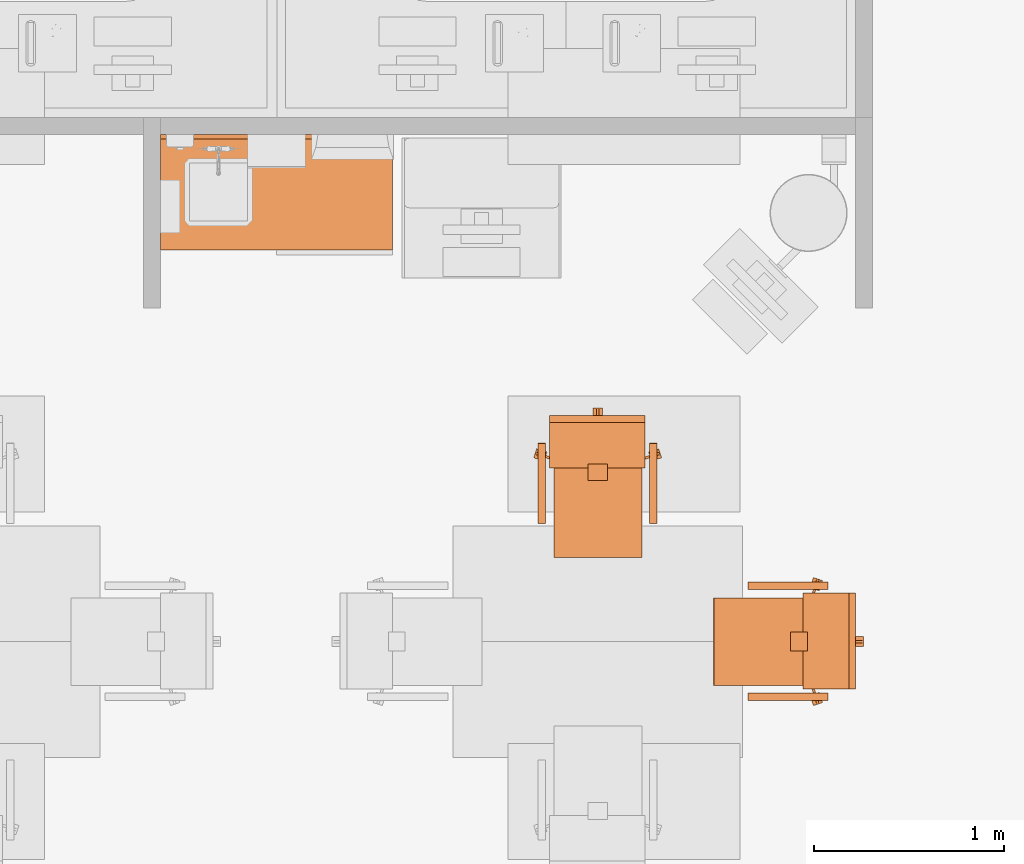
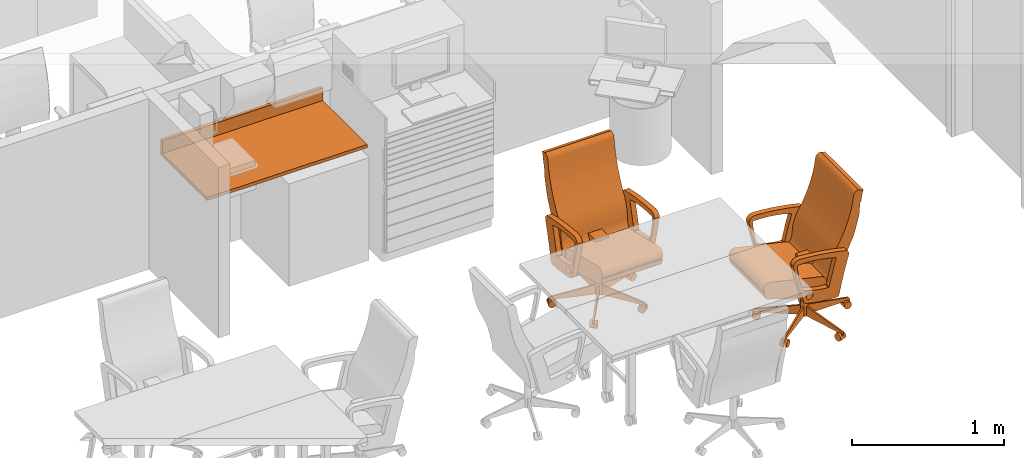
# One storey, part 60 of 142: 3 proxies.
"""IFC2X3 building model written with IfcOpenShell, lengths in feet."""

import ifcopenshell
import ifcopenshell.guid

model = None  # the IFC model being written
_history = None  # IfcOwnerHistory: only IFC2X3 demands one
_inside = {}  # id of a spatial element -> (the spatial element, [elements in it])
_under = {}  # id of a project, library or spatial element -> (it, [spatial elements below it])
_declared = {}  # id of a project -> (the project, [libraries it declares])
_typed = {}  # id of a type object -> (the type object, [elements of that type])
_made_of = {}  # id of a material, layer set ... -> (it, [elements and type objects made of it])


def new_model(schema):
    """Start an empty IFC model of exactly this schema.

    Asked for "IFC4X3", IfcOpenShell would pick the latest addendum, in which some entities
    have other attributes; the version numbers below select the first issue.
    IFC2X3 requires an IfcOwnerHistory on every rooted entity: one is made here for all.
    """
    global model, _history
    if schema == "IFC4X3":
        model = ifcopenshell.file(schema_version=(4, 3, 0, 0))
    else:
        model = ifcopenshell.file(schema=schema)
    _inside.clear()
    _under.clear()
    _declared.clear()
    _typed.clear()
    _made_of.clear()
    _history = None
    if model.schema == "IFC2X3":
        org = make("IfcOrganization", Name="unknown")
        user = make(
            "IfcPersonAndOrganization",
            ThePerson=make("IfcPerson", FamilyName="unknown"),
            TheOrganization=org,
        )
        app = make(
            "IfcApplication",
            ApplicationDeveloper=org,
            Version="unknown",
            ApplicationFullName="unknown",
            ApplicationIdentifier="unknown",
        )
        _history = make(
            "IfcOwnerHistory",
            OwningUser=user,
            OwningApplication=app,
            ChangeAction="ADDED",
            CreationDate=0,
        )
    return model


def make(cls, **values):
    """One entity of the class cls with the attributes given. An attribute that is None is left unset."""
    return model.create_entity(
        cls, **{name: value for name, value in values.items() if value is not None}
    )


def entity(cls, *values):
    """Any entity or typed value of the class cls, its attributes in the order of the schema. None: left unset."""
    e = model.create_entity(cls)
    for i, value in enumerate(values):
        if value is not None:
            e[i] = value
    return e


def rooted(cls, **values):
    """An entity with a GlobalId (a new one), such as an element, a storey or a relation."""
    return make(cls, GlobalId=ifcopenshell.guid.new(), OwnerHistory=_history, **values)


def si_unit(unit_type, name, prefix=None):
    """IfcSIUnit, for example si_unit("LENGTHUNIT", "METRE", prefix="MILLI")."""
    return make("IfcSIUnit", UnitType=unit_type, Prefix=prefix, Name=name)


def converted_unit(unit_type, name, factor, base, dimensions=None, offset=None):
    """IfcConversionBasedUnit, such as the inch: factor (a typed value) times the base unit."""
    return make(
        "IfcConversionBasedUnit"
        if offset is None
        else "IfcConversionBasedUnitWithOffset",
        ConversionOffset=offset,
        Dimensions=None
        if dimensions is None
        else entity("IfcDimensionalExponents", *dimensions),
        UnitType=unit_type,
        Name=name,
        ConversionFactor=make(
            "IfcMeasureWithUnit", ValueComponent=factor, UnitComponent=base
        ),
    )


def derived_unit(unit_type, elements):
    """IfcDerivedUnit: a product of units, each with its exponent."""
    return make(
        "IfcDerivedUnit",
        Elements=[
            make("IfcDerivedUnitElement", Unit=unit, Exponent=power)
            for unit, power in elements
        ],
        UnitType=unit_type,
    )


def assignment(units):
    """IfcUnitAssignment: the units of a project."""
    return None if units is None else make("IfcUnitAssignment", Units=units)


def point(xyz):
    """IfcCartesianPoint."""
    return None if xyz is None else make("IfcCartesianPoint", Coordinates=xyz)


def direction(xyz):
    """IfcDirection."""
    return None if xyz is None else make("IfcDirection", DirectionRatios=xyz)


def frame(location, z_axis=None, x_axis=None):
    """IfcAxis2Placement3D, a coordinate frame: its origin and axes. An axis left out is left unset."""
    return make(
        "IfcAxis2Placement3D",
        Location=point(location),
        Axis=direction(z_axis),
        RefDirection=direction(x_axis),
    )


def frame_2d(location, x_axis=None):
    """IfcAxis2Placement2D, a coordinate frame in the plane: its origin and x axis."""
    return make(
        "IfcAxis2Placement2D", Location=point(location), RefDirection=direction(x_axis)
    )


def origin():
    """The frame at (0, 0, 0) with its axes left unset."""
    return frame((0.0, 0.0, 0.0))


def place(relative_to, where):
    """IfcLocalPlacement: puts the frame where relative to a parent placement (None: the world)."""
    return make(
        "IfcLocalPlacement", PlacementRelTo=relative_to, RelativePlacement=where
    )


def context(
    kind, dimensions, precision=None, world=None, true_north=None, identifier=None
):
    """IfcGeometricRepresentationContext, for example the 3D "Model" context."""
    return make(
        "IfcGeometricRepresentationContext",
        ContextIdentifier=identifier,
        ContextType=kind,
        CoordinateSpaceDimension=dimensions,
        Precision=precision,
        WorldCoordinateSystem=world,
        TrueNorth=true_north,
    )


def subcontext(parent, identifier, kind, view, scale=None):
    """IfcGeometricRepresentationSubContext, for example "Body" below "Model"."""
    return make(
        "IfcGeometricRepresentationSubContext",
        ContextIdentifier=identifier,
        ContextType=kind,
        ParentContext=parent,
        TargetScale=scale,
        TargetView=view,
    )


def project(units=None, contexts=None):
    """IfcProject with its units and contexts."""
    return rooted(
        "IfcProject",
        Name="project",
        RepresentationContexts=contexts,
        UnitsInContext=assignment(units),
    )


def spatial(cls, under=None, at=None, **own):
    """A site, building, storey or space (cls), placed at a placement, below another one or the project."""
    s = rooted(cls, ObjectPlacement=at, **own)
    if under is not None:
        _under.setdefault(under.id(), (under, []))[1].append(s)
    return s


def polyline(points):
    """IfcPolyline through the points."""
    return make("IfcPolyline", Points=[point(p) for p in points])


def circle_curve(where, radius):
    """IfcCircle in the frame where."""
    return make("IfcCircle", Position=where, Radius=radius)


def parameter(value):
    """IfcParameterValue: where a trimmed curve begins or ends, as a parameter of its basis curve."""
    return model.create_entity("IfcParameterValue", value)


def trimmed(basis, trim1, trim2, sense, master):
    """IfcTrimmedCurve: the piece of a basis curve between two trims."""
    return make(
        "IfcTrimmedCurve",
        BasisCurve=basis,
        Trim1=trim1,
        Trim2=trim2,
        SenseAgreement=sense,
        MasterRepresentation=master,
    )


def segment(curve, same_sense, transition):
    """IfcCompositeCurveSegment."""
    return make(
        "IfcCompositeCurveSegment",
        Transition=transition,
        SameSense=same_sense,
        ParentCurve=curve,
    )


def composite_curve(segments, self_intersect=None):
    """IfcCompositeCurve: segments joined end to end."""
    return make("IfcCompositeCurve", Segments=segments, SelfIntersect=self_intersect)


def profile(cls, at=None, kind="AREA", **sizes):
    """A parametric profile (cls). Its sizes go by their IFC names, for example OverallWidth=200.0."""
    return make(cls, ProfileType=kind, Position=at, **sizes)


def rectangle(**sizes):
    """IfcRectangleProfileDef."""
    return profile("IfcRectangleProfileDef", **sizes)


def circle(**sizes):
    """IfcCircleProfileDef."""
    return profile("IfcCircleProfileDef", **sizes)


def outline(outer, holes=None, kind="AREA"):
    """IfcArbitraryClosedProfileDef: a profile drawn as a closed curve; with holes, ...WithVoids."""
    if holes is None:
        return make("IfcArbitraryClosedProfileDef", ProfileType=kind, OuterCurve=outer)
    return make(
        "IfcArbitraryProfileDefWithVoids",
        ProfileType=kind,
        OuterCurve=outer,
        InnerCurves=holes,
    )


def extrude(swept, where, along, depth):
    """IfcExtrudedAreaSolid: the profile swept, set in the frame where, extruded along a direction by depth."""
    return make(
        "IfcExtrudedAreaSolid",
        SweptArea=swept,
        Position=where,
        ExtrudedDirection=direction(along),
        Depth=depth,
    )


def shape(context_of_items, identifier, shape_type, items):
    """IfcShapeRepresentation: the items that make up one representation, for example the "Body"."""
    return make(
        "IfcShapeRepresentation",
        ContextOfItems=context_of_items,
        RepresentationIdentifier=identifier,
        RepresentationType=shape_type,
        Items=items,
    )


def source(mapping_origin, context_of_items, identifier, shape_type, items):
    """IfcRepresentationMap: a shape defined once, which mapped items show again and again."""
    return make(
        "IfcRepresentationMap",
        MappingOrigin=mapping_origin,
        MappedRepresentation=shape(context_of_items, identifier, shape_type, items),
    )


def transform(
    local_origin,
    x_axis=None,
    y_axis=None,
    z_axis=None,
    scale=None,
    scale2=None,
    scale3=None,
    uniform=True,
):
    """IfcCartesianTransformationOperator3D, or its non-uniform kind. x_axis, y_axis, z_axis: its Axis1, 2, 3."""
    if uniform:
        return make(
            "IfcCartesianTransformationOperator3D",
            Axis1=direction(x_axis),
            Axis2=direction(y_axis),
            LocalOrigin=point(local_origin),
            Scale=scale,
            Axis3=direction(z_axis),
        )
    return make(
        "IfcCartesianTransformationOperator3DnonUniform",
        Axis1=direction(x_axis),
        Axis2=direction(y_axis),
        LocalOrigin=point(local_origin),
        Scale=scale,
        Axis3=direction(z_axis),
        Scale2=scale2,
        Scale3=scale3,
    )


def mapped(mapping_source, mapping_target):
    """IfcMappedItem: shows the shape of a source again, moved by a transform."""
    return make(
        "IfcMappedItem", MappingSource=mapping_source, MappingTarget=mapping_target
    )


def made_of(thing, what):
    """Note that an element or type object is made of a material, layer set ...; save() writes the relation."""
    if what is not None:
        _made_of.setdefault(what.id(), (what, []))[1].append(thing)
    return thing


def type_object(cls, material=None, **own):
    """A type object (cls), such as IfcWallType, which elements share."""
    return made_of(rooted(cls, **own), material)


def type_shapes(of_type, sources):
    """Give a type object the sources (RepresentationMaps) that its elements show as mapped items."""
    of_type.RepresentationMaps = sources


def element(
    cls,
    number,
    at=None,
    inside=None,
    cuts=None,
    type_object=None,
    material=None,
    context=None,
    identifier="Body",
    shape_type=None,
    held_by="IfcProductDefinitionShape",
    body=None,
    shapes=None,
    **own,
):
    """One element of the class cls, such as IfcWall. Its Tag is "e" and its number.

    at: its placement. inside: the storey or other place that contains it. cuts: it is an
    opening in that element (IfcRelVoidsElement). A single representation is given by context,
    identifier, shape_type and body (its items); several are given by shapes. held_by: the class
    of the entity that holds the representations. save() writes the other relations.
    """
    e = rooted(cls, Tag="e%d" % number, ObjectPlacement=at, **own)
    if body is not None:
        shapes = [shape(context, identifier, shape_type, body)]
    if shapes is not None:
        e.Representation = make(held_by, Representations=shapes)
    if inside is not None:
        _inside.setdefault(inside.id(), (inside, []))[1].append(e)
    if cuts is not None:
        rooted(
            "IfcRelVoidsElement", RelatingBuildingElement=cuts, RelatedOpeningElement=e
        )
    if type_object is not None:
        _typed.setdefault(type_object.id(), (type_object, []))[1].append(e)
    return made_of(e, material)


def aggregate(whole, parts):
    """IfcRelAggregates: a whole, such as a stair, and the parts it consists of."""
    return rooted("IfcRelAggregates", RelatingObject=whole, RelatedObjects=parts)


def save(model, path):
    """Write the relations noted so far, then the file.

    IfcRelAggregates (storeys below a building ...), IfcRelContainedInSpatialStructure (elements
    in a storey), IfcRelDefinesByType, IfcRelAssociatesMaterial and IfcRelDeclares: one each for
    every whole, place, type object, material and project.
    """
    for whole, parts in _under.values():
        aggregate(whole, parts)
    for where, things in _inside.values():
        rooted(
            "IfcRelContainedInSpatialStructure",
            RelatedElements=things,
            RelatingStructure=where,
        )
    for kind, things in _typed.values():
        rooted("IfcRelDefinesByType", RelatedObjects=things, RelatingType=kind)
    for what, things in _made_of.values():
        rooted("IfcRelAssociatesMaterial", RelatedObjects=things, RelatingMaterial=what)
    for by, libraries in _declared.values():
        rooted("IfcRelDeclares", RelatingContext=by, RelatedDefinitions=libraries)
    model.write(path)


model = new_model("IFC2X3")

# Units and contexts
model_context = context("Model", 3, precision=0.0001, world=origin(), true_north=direction((6.12303176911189e-17, 1.0)))
body_context = subcontext(model_context, "Body", "Model", "MODEL_VIEW")
ifc_project = project(units=[converted_unit("LENGTHUNIT", "FOOT", entity("IfcRatioMeasure", 0.3048), si_unit("LENGTHUNIT", "METRE"), dimensions=[1, 0, 0, 0, 0, 0, 0]), converted_unit("AREAUNIT", "SQUARE FOOT", entity("IfcRatioMeasure", 0.09290304), si_unit("AREAUNIT", "SQUARE_METRE"), dimensions=[2, 0, 0, 0, 0, 0, 0]), converted_unit("VOLUMEUNIT", "CUBIC FOOT", entity("IfcRatioMeasure", 0.028316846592), si_unit("VOLUMEUNIT", "CUBIC_METRE"), dimensions=[3, 0, 0, 0, 0, 0, 0]), converted_unit("PLANEANGLEUNIT", "DEGREE", entity("IfcRatioMeasure", 0.0174532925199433), si_unit("PLANEANGLEUNIT", "RADIAN"), dimensions=[0, 0, 0, 0, 0, 0, 0]), si_unit("MASSUNIT", "GRAM", prefix="KILO"), derived_unit("MASSDENSITYUNIT", [(si_unit("MASSUNIT", "GRAM", prefix="KILO"), 1), (si_unit("LENGTHUNIT", "METRE"), -3)]), si_unit("TIMEUNIT", "SECOND"), si_unit("FREQUENCYUNIT", "HERTZ"), si_unit("THERMODYNAMICTEMPERATUREUNIT", "DEGREE_CELSIUS"), derived_unit("THERMALTRANSMITTANCEUNIT", [(si_unit("MASSUNIT", "GRAM", prefix="KILO"), 1), (si_unit("THERMODYNAMICTEMPERATUREUNIT", "KELVIN"), -1), (si_unit("TIMEUNIT", "SECOND"), -3)]), derived_unit("VOLUMETRICFLOWRATEUNIT", [(si_unit("LENGTHUNIT", "METRE"), 3), (si_unit("TIMEUNIT", "SECOND"), -1)]), si_unit("ELECTRICCURRENTUNIT", "AMPERE"), si_unit("ELECTRICVOLTAGEUNIT", "VOLT"), si_unit("POWERUNIT", "WATT"), si_unit("FORCEUNIT", "NEWTON"), si_unit("ILLUMINANCEUNIT", "LUX"), si_unit("LUMINOUSFLUXUNIT", "LUMEN"), si_unit("LUMINOUSINTENSITYUNIT", "CANDELA"), derived_unit("USERDEFINED", [(si_unit("MASSUNIT", "GRAM", prefix="KILO"), -1), (si_unit("LENGTHUNIT", "METRE"), -2), (si_unit("TIMEUNIT", "SECOND"), 3), (si_unit("LUMINOUSFLUXUNIT", "LUMEN"), 1)]), derived_unit("LINEARVELOCITYUNIT", [(si_unit("LENGTHUNIT", "METRE"), 1), (si_unit("TIMEUNIT", "SECOND"), -1)]), si_unit("PRESSUREUNIT", "PASCAL"), derived_unit("USERDEFINED", [(si_unit("LENGTHUNIT", "METRE"), -2), (si_unit("MASSUNIT", "GRAM", prefix="KILO"), 1), (si_unit("TIMEUNIT", "SECOND"), -2)])], contexts=[model_context])

# Site, building, storey
site_placement = place(None, origin())
site = spatial("IfcSite", under=ifc_project, at=site_placement, Name="Default", CompositionType="ELEMENT")
building_placement = place(site_placement, origin())
building = spatial("IfcBuilding", under=site, at=building_placement, Name="OUTPATIENT / PACT CLINIC (Ch. 265)", CompositionType="ELEMENT")
storey_placement = place(building_placement, origin())
storey = spatial("IfcBuildingStorey", under=building, at=storey_placement, Name="LEVEL 1", CompositionType="ELEMENT", Elevation=0.0)

# Proxy
building_element_proxy_type_1 = type_object("IfcBuildingElementProxyType", Name="CT020 - Countertop, Solid Surface - No Opening (1)", PredefinedType="NOTDEFINED")
shared_shape_1 = source(origin(), body_context, "Body", "SweptSolid", [
    extrude(rectangle(XDim=4.0, YDim=0.083333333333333, at=frame_2d((0.0, -5.55111512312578e-17), x_axis=(1.0, 0.0))), frame((0.0, 0.958333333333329, 0.0833333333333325)), (0.0, 0.0, 1.0), 0.333333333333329),
    extrude(rectangle(XDim=4.0, YDim=2.0, at=frame_2d((3.33066907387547e-16, 0.0), x_axis=(1.0, 0.0))), origin(), (0.0, 0.0, 1.0), 0.0833333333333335),
])
type_shapes(building_element_proxy_type_1, [shared_shape_1])
proxy_1_placement = place(storey_placement, frame((419.359283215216, -890.712158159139, 2.91666666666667)))
element("IfcBuildingElementProxy", 1, at=proxy_1_placement, inside=storey, type_object=building_element_proxy_type_1, Name="CT020 - Countertop, Solid Surface - No Opening (1):CT020 - Countertop, Solid Surface - No Opening (1)", ObjectType="CT020 - Countertop, Solid Surface - No Opening (1)", context=body_context, shape_type="MappedRepresentation", body=[
    mapped(shared_shape_1, transform((0.0, 0.0, 0.0), scale=1.0)),
])

# Space
space_placement = place(storey_placement, origin())
space = spatial("IfcSpace", under=storey, at=space_placement, Name="WRTM1", CompositionType="ELEMENT", InteriorOrExteriorSpace="INTERNAL")

# Proxies
building_element_proxy_type_2 = type_object("IfcBuildingElementProxyType", Name="F0220 - Chair, Conference", PredefinedType="NOTDEFINED")
shared_shape_2 = source(origin(), body_context, "Body", "SweptSolid", [
    extrude(outline(composite_curve([segment(trimmed(circle_curve(frame_2d((9.14984606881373, 2.49371945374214), x_axis=(1.0, 0.0)), 10.0417603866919), [parameter(191.105394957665)], [parameter(197.183115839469)], True, "PARAMETER"), True, "CONTINUOUS"), segment(trimmed(circle_curve(frame_2d((-0.383994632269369, -0.454418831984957), x_axis=(1.0, 0.0)), 0.0625), [parameter(197.183115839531)], [parameter(255.942255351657)], True, "PARAMETER"), True, "CONTINUOUS"), segment(trimmed(circle_curve(frame_2d((0.478250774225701, 2.98907031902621), x_axis=(1.0, 0.0)), 3.61230065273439), [parameter(255.942255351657)], [parameter(268.328818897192)], True, "PARAMETER"), True, "CONTINUOUS"), segment(trimmed(circle_curve(frame_2d((0.374732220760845, -0.55901559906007), x_axis=(1.0, 0.0)), 0.0627049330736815), [parameter(268.328818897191)], [parameter(347.551961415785)], True, "PARAMETER"), True, "CONTINUOUS"), segment(trimmed(circle_curve(frame_2d((12.2871693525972, -3.01281927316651), x_axis=(1.0, 0.0)), 12.0998385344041), [parameter(163.635179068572)], [parameter(168.364820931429)], True, "PARAMETER"), False, "CONTINUOUS"), segment(trimmed(circle_curve(frame_2d((0.575436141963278, 0.426318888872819), x_axis=(1.0, 0.0)), 0.106404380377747), [parameter(343.635179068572)], [parameter(76.3648209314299)], True, "PARAMETER"), True, "CONTINUOUS"), segment(trimmed(circle_curve(frame_2d((-0.866637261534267, -5.51852508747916), x_axis=(1.0, 0.0)), 6.22365422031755), [parameter(76.36482093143)], [parameter(86.9930058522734)], True, "PARAMETER"), True, "CONTINUOUS"), segment(trimmed(circle_curve(frame_2d((-0.54837852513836, 0.540062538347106), x_axis=(1.0, 0.0)), 0.156713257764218), [parameter(86.9930058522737)], [parameter(172.863289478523)], True, "PARAMETER"), True, "CONTINUOUS")], self_intersect=False), holes=[composite_curve([segment(trimmed(circle_curve(frame_2d((0.165389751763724, -0.270570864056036), x_axis=(1.0, 0.0)), 0.0208333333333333), [parameter(266.624086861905)], [parameter(347.258129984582)], True, "PARAMETER"), False, "CONTINUOUS"), segment(trimmed(circle_curve(frame_2d((0.277251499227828, 1.62574197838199), x_axis=(1.0, 0.0)), 1.92044262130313), [parameter(246.929733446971)], [parameter(266.62408686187)], True, "PARAMETER"), False, "CONTINUOUS"), segment(trimmed(circle_curve(frame_2d((-0.46977528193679, -0.128159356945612), x_axis=(1.0, 0.0)), 0.0140798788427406), [parameter(191.196690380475)], [parameter(246.929733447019)], True, "PARAMETER"), False, "CONTINUOUS"), segment(trimmed(circle_curve(frame_2d((2.43855792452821, 0.768421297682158), x_axis=(1.0, 0.0)), 3.05740066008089), [parameter(184.763265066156)], [parameter(197.106187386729)], True, "PARAMETER"), False, "CONTINUOUS"), segment(trimmed(circle_curve(frame_2d((-0.574176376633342, 0.525693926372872), x_axis=(1.0, 0.0)), 0.0358851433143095), [parameter(90.6302244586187)], [parameter(198.112157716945)], True, "PARAMETER"), False, "CONTINUOUS"), segment(trimmed(circle_curve(frame_2d((-0.540439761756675, -2.54128905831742), x_axis=(1.0, 0.0)), 3.1030536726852), [parameter(73.3959262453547)], [parameter(90.6302244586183)], True, "PARAMETER"), False, "CONTINUOUS"), segment(trimmed(circle_curve(frame_2d((0.340324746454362, 0.412409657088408), x_axis=(1.0, 0.0)), 0.0208333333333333), [parameter(344.008713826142)], [parameter(73.3959262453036)], True, "PARAMETER"), False, "CONTINUOUS"), segment(trimmed(circle_curve(frame_2d((12.2923776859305, -3.0128192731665), x_axis=(1.0, 0.0)), 12.4123385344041), [parameter(164.008713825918)], [parameter(167.258129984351)], True, "PARAMETER"), True, "CONTINUOUS")], self_intersect=False), composite_curve([segment(trimmed(circle_curve(frame_2d((-0.300575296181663, -0.351220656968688), x_axis=(1.0, 0.0)), 0.0833333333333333), [parameter(180.0)], [parameter(360.0)], True, "PARAMETER"), False, "CONTINUOUS"), segment(trimmed(circle_curve(frame_2d((-0.300575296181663, -0.351220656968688), x_axis=(1.0, 0.0)), 0.0833333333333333), [parameter(0.0)], [parameter(180.0)], True, "PARAMETER"), False, "CONTINUOUS")], self_intersect=False)]), frame((-1.03331274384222, 0.0541567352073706, 1.78474215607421), z_axis=(1.0, 0.0, 0.0), x_axis=(0.0, 1.0, 0.0)), (0.0, 0.0, 1.0), 0.128812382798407),
    extrude(outline(composite_curve([segment(trimmed(circle_curve(frame_2d((9.14984606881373, 2.49371945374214), x_axis=(1.0, 0.0)), 10.0417603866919), [parameter(191.105394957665)], [parameter(197.183115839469)], True, "PARAMETER"), True, "CONTINUOUS"), segment(trimmed(circle_curve(frame_2d((-0.383994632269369, -0.454418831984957), x_axis=(1.0, 0.0)), 0.0625), [parameter(197.183115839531)], [parameter(255.942255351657)], True, "PARAMETER"), True, "CONTINUOUS"), segment(trimmed(circle_curve(frame_2d((0.478250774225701, 2.98907031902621), x_axis=(1.0, 0.0)), 3.61230065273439), [parameter(255.942255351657)], [parameter(268.328818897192)], True, "PARAMETER"), True, "CONTINUOUS"), segment(trimmed(circle_curve(frame_2d((0.374732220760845, -0.55901559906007), x_axis=(1.0, 0.0)), 0.0627049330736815), [parameter(268.328818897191)], [parameter(347.551961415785)], True, "PARAMETER"), True, "CONTINUOUS"), segment(trimmed(circle_curve(frame_2d((12.2871693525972, -3.01281927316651), x_axis=(1.0, 0.0)), 12.0998385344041), [parameter(163.635179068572)], [parameter(168.364820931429)], True, "PARAMETER"), False, "CONTINUOUS"), segment(trimmed(circle_curve(frame_2d((0.575436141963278, 0.426318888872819), x_axis=(1.0, 0.0)), 0.106404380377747), [parameter(343.635179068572)], [parameter(76.3648209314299)], True, "PARAMETER"), True, "CONTINUOUS"), segment(trimmed(circle_curve(frame_2d((-0.866637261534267, -5.51852508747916), x_axis=(1.0, 0.0)), 6.22365422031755), [parameter(76.36482093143)], [parameter(86.9930058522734)], True, "PARAMETER"), True, "CONTINUOUS"), segment(trimmed(circle_curve(frame_2d((-0.54837852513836, 0.540062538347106), x_axis=(1.0, 0.0)), 0.156713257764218), [parameter(86.9930058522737)], [parameter(172.863289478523)], True, "PARAMETER"), True, "CONTINUOUS")], self_intersect=False), holes=[composite_curve([segment(trimmed(circle_curve(frame_2d((0.165389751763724, -0.270570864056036), x_axis=(1.0, 0.0)), 0.0208333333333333), [parameter(266.624086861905)], [parameter(347.258129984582)], True, "PARAMETER"), False, "CONTINUOUS"), segment(trimmed(circle_curve(frame_2d((0.277251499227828, 1.62574197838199), x_axis=(1.0, 0.0)), 1.92044262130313), [parameter(246.929733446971)], [parameter(266.62408686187)], True, "PARAMETER"), False, "CONTINUOUS"), segment(trimmed(circle_curve(frame_2d((-0.46977528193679, -0.128159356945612), x_axis=(1.0, 0.0)), 0.0140798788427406), [parameter(191.196690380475)], [parameter(246.929733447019)], True, "PARAMETER"), False, "CONTINUOUS"), segment(trimmed(circle_curve(frame_2d((2.43855792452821, 0.768421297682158), x_axis=(1.0, 0.0)), 3.05740066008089), [parameter(184.763265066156)], [parameter(197.106187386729)], True, "PARAMETER"), False, "CONTINUOUS"), segment(trimmed(circle_curve(frame_2d((-0.574176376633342, 0.525693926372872), x_axis=(1.0, 0.0)), 0.0358851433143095), [parameter(90.6302244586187)], [parameter(198.112157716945)], True, "PARAMETER"), False, "CONTINUOUS"), segment(trimmed(circle_curve(frame_2d((-0.540439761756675, -2.54128905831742), x_axis=(1.0, 0.0)), 3.1030536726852), [parameter(73.3959262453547)], [parameter(90.6302244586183)], True, "PARAMETER"), False, "CONTINUOUS"), segment(trimmed(circle_curve(frame_2d((0.340324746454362, 0.412409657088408), x_axis=(1.0, 0.0)), 0.0208333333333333), [parameter(344.008713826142)], [parameter(73.3959262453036)], True, "PARAMETER"), False, "CONTINUOUS"), segment(trimmed(circle_curve(frame_2d((12.2923776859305, -3.0128192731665), x_axis=(1.0, 0.0)), 12.4123385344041), [parameter(164.008713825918)], [parameter(167.258129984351)], True, "PARAMETER"), True, "CONTINUOUS")], self_intersect=False), composite_curve([segment(trimmed(circle_curve(frame_2d((-0.300575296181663, -0.351220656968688), x_axis=(1.0, 0.0)), 0.0833333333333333), [parameter(180.0)], [parameter(360.0)], True, "PARAMETER"), False, "CONTINUOUS"), segment(trimmed(circle_curve(frame_2d((-0.300575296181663, -0.351220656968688), x_axis=(1.0, 0.0)), 0.0833333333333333), [parameter(0.0)], [parameter(180.0)], True, "PARAMETER"), False, "CONTINUOUS")], self_intersect=False)]), frame((0.889516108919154, 0.0541567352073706, 1.78474215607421), z_axis=(1.0, 0.0, 0.0), x_axis=(0.0, 1.0, 0.0)), (0.0, 0.0, 1.0), 0.128812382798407),
    extrude(outline(composite_curve([segment(trimmed(circle_curve(frame_2d((0.770862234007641, -1.97589519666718), x_axis=(1.0, 0.0)), 2.24250574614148), [parameter(83.7744840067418)], [parameter(104.587152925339)], True, "PARAMETER"), True, "CONTINUOUS"), segment(trimmed(circle_curve(frame_2d((2.30952075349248, -7.88833070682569), x_axis=(1.0, 0.0)), 8.35187262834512), [parameter(104.587152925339)], [parameter(109.615059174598)], True, "PARAMETER"), True, "CONTINUOUS"), segment(trimmed(circle_curve(frame_2d((-0.466775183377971, -0.0980657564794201), x_axis=(1.0, 0.0)), 0.0816823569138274), [parameter(109.6150591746)], [parameter(157.671413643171)], True, "PARAMETER"), True, "CONTINUOUS"), segment(trimmed(circle_curve(frame_2d((0.971574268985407, -0.592538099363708), x_axis=(1.0, 0.0)), 1.60252010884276), [parameter(160.857176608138)], [parameter(166.076927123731)], True, "PARAMETER"), True, "CONTINUOUS"), segment(trimmed(circle_curve(frame_2d((-0.579633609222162, -0.207989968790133), x_axis=(1.0, 0.0)), 0.00435768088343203), [parameter(166.076927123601)], [parameter(280.378705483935)], True, "PARAMETER"), True, "CONTINUOUS"), segment(trimmed(circle_curve(frame_2d((16.512596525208, -93.5315619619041), x_axis=(1.0, 0.0)), 94.871526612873), [parameter(99.4235676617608)], [parameter(100.378705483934)], True, "PARAMETER"), False, "CONTINUOUS"), segment(trimmed(circle_curve(frame_2d((1.8700360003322, -0.000965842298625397), x_axis=(1.0, 0.0)), 0.89298195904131), [parameter(163.451060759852)], [parameter(176.106880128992)], True, "PARAMETER"), False, "CONTINUOUS")], self_intersect=False)), frame((-0.758282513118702, -0.647436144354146, 1.48104866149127), z_axis=(-1.0, 0.0, 0.0), x_axis=(0.0, 1.0, 0.0)), (0.0, 0.0, -1.0), 1.51656502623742),
    extrude(outline(composite_curve([segment(trimmed(circle_curve(frame_2d((0.748071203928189, -0.232027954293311), x_axis=(1.0, 0.0)), 0.184186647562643), [parameter(350.278861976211)], [parameter(77.0065708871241)], True, "PARAMETER"), True, "CONTINUOUS"), segment(polyline([(0.789483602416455, -0.0525572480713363), (-0.479286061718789, 0.240208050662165)]), True, "CONTINUOUS"), segment(trimmed(circle_curve(frame_2d((-0.507608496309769, 0.112724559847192), x_axis=(1.0, 0.0)), 0.130591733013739), [parameter(77.474288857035)], [parameter(198.999999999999)], True, "PARAMETER"), True, "CONTINUOUS"), segment(polyline([(-0.631085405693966, 0.0702080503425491), (-0.608725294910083, 0.00526957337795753)]), True, "CONTINUOUS"), segment(trimmed(circle_curve(frame_2d((16.4660541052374, 93.3276059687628), x_axis=(1.0, 0.0)), 94.871526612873), [parameter(259.631526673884)], [parameter(260.574620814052)], True, "PARAMETER"), True, "CONTINUOUS")], self_intersect=False)), frame((-0.758282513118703, -0.600893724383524, 1.68500465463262), z_axis=(1.0, 0.0, 0.0), x_axis=(0.0, 1.0, 0.0)), (0.0, 0.0, 1.0), 1.51656502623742),
    extrude(outline(composite_curve([segment(trimmed(circle_curve(frame_2d((-5.48433918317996, 1.67691427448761), x_axis=(1.0, 0.0)), 5.89579235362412), [parameter(342.407441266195)], [parameter(347.674731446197)], True, "PARAMETER"), True, "CONTINUOUS"), segment(polyline([(0.275564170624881, 0.418391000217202), (0.291615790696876, 0.683111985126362)]), True, "CONTINUOUS"), segment(trimmed(circle_curve(frame_2d((0.343994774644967, 0.679935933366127), x_axis=(1.0, 0.0)), 0.0524751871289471), [parameter(121.399025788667)], [parameter(176.530061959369)], True, "PARAMETER"), False, "CONTINUOUS"), segment(trimmed(circle_curve(frame_2d((0.186262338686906, 0.76504705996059), x_axis=(1.0, 0.0)), 0.136484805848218), [parameter(342.817239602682)], [parameter(358.256726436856)], True, "PARAMETER"), True, "CONTINUOUS"), segment(polyline([(0.322683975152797, 0.760895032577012), (0.342033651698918, 0.876984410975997)]), True, "CONTINUOUS"), segment(trimmed(circle_curve(frame_2d((1.20150958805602, 0.733727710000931), x_axis=(1.0, 0.0)), 0.871333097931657), [parameter(161.216169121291)], [parameter(170.536983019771)], True, "PARAMETER"), False, "CONTINUOUS"), segment(trimmed(circle_curve(frame_2d((0.559823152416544, 1.74436883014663), x_axis=(1.0, 0.0)), 0.752717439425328), [parameter(246.521848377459)], [parameter(255.910489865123)], True, "PARAMETER"), False, "CONTINUOUS"), segment(trimmed(circle_curve(frame_2d((0.257390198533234, 0.926976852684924), x_axis=(1.0, 0.0)), 0.127016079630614), [parameter(88.8492703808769)], [parameter(173.15072961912)], True, "PARAMETER"), True, "CONTINUOUS"), segment(trimmed(circle_curve(frame_2d((-2.87663606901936, 1.30342050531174), x_axis=(1.0, 0.0)), 3.02953749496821), [parameter(328.849270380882)], [parameter(353.150729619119)], True, "PARAMETER"), False, "CONTINUOUS"), segment(trimmed(circle_curve(frame_2d((0.690213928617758, -0.852550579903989), x_axis=(1.0, 0.0)), 1.13827130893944), [parameter(148.849270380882)], [parameter(180.0)], True, "PARAMETER"), True, "CONTINUOUS"), segment(trimmed(circle_curve(frame_2d((-0.752422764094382, -0.836472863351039), x_axis=(1.0, 0.0)), 0.304789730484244), [parameter(317.298982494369)], [parameter(356.976233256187)], True, "PARAMETER"), False, "CONTINUOUS"), segment(trimmed(circle_curve(frame_2d((-0.687987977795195, -1.1351871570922), x_axis=(1.0, 0.0)), 0.184186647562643), [parameter(355.215711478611)], [parameter(29.9715875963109)], True, "PARAMETER"), False, "CONTINUOUS"), segment(trimmed(circle_curve(frame_2d((0.387434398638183, -1.10614935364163), x_axis=(1.0, 0.0)), 0.89298195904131), [parameter(182.849969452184)], [parameter(196.548939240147)], True, "PARAMETER"), True, "CONTINUOUS"), segment(trimmed(circle_curve(frame_2d((-0.711739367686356, 0.868780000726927), x_axis=(1.0, 0.0)), 2.24250574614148), [parameter(276.225515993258)], [parameter(282.457471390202)], True, "PARAMETER"), True, "CONTINUOUS"), segment(trimmed(circle_curve(frame_2d((2.38262323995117, -1.47671904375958), x_axis=(1.0, 0.0)), 2.61526502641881), [parameter(155.15786130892)], [parameter(176.584898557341)], True, "PARAMETER"), False, "CONTINUOUS"), segment(polyline([(0.00935197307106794, -0.377994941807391), (0.135706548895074, -0.105065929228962)]), True, "CONTINUOUS")], self_intersect=False)), frame((-0.836149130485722, 0.835165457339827, 2.58816385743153), z_axis=(1.0, 0.0, 0.0), x_axis=(0.0, 1.0, 0.0)), (0.0, 0.0, 1.0), 1.65266976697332),
    extrude(circle(Radius=0.0833333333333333, at=frame_2d((0.0, -1.11022302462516e-16), x_axis=(1.0, 0.0))), frame((-0.00206593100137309, 0.212136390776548, 0.173534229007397)), (0.0, 0.0, 1.0), 1.0846174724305),
    extrude(circle(Radius=0.0925205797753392, at=frame_2d((0.0, -1.52655665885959e-16), x_axis=(1.0, 0.0))), frame((0.962866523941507, 0.613283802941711, 0.0902008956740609), z_axis=(0.309016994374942, -0.951056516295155, 0.0), x_axis=(0.951056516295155, 0.309016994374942, 0.0)), (0.0, 0.0, 1.0), 0.166666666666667),
    extrude(outline(composite_curve([segment(polyline([(-0.29506616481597, -0.0510253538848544), (0.663267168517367, -0.0510253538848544)]), True, "CONTINUOUS"), segment(polyline([(0.663267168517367, -0.0510253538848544), (0.663267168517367, 0.198974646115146)]), True, "CONTINUOUS"), segment(polyline([(0.663267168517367, 0.198974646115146), (0.579933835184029, 0.198974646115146)]), True, "CONTINUOUS"), segment(polyline([(0.579933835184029, 0.198974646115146), (-0.392870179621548, 0.027443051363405)]), True, "CONTINUOUS"), segment(trimmed(circle_curve(frame_2d((-0.378399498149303, -0.0546242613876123), x_axis=(-1.0, 0.0)), 0.0833333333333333), [parameter(280.0)], [parameter(0.0)], True, "PARAMETER"), True, "CONTINUOUS"), segment(polyline([(-0.461732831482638, -0.0546242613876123), (-0.461732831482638, -0.134358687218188)]), True, "CONTINUOUS"), segment(polyline([(-0.461732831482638, -0.134358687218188), (-0.29506616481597, -0.134358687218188)]), True, "CONTINUOUS"), segment(polyline([(-0.29506616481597, -0.134358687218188), (-0.29506616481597, -0.0510253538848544)]), True, "CONTINUOUS")], self_intersect=False)), frame((0.635176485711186, 0.397283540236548, 0.224559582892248), z_axis=(-0.309016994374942, 0.951056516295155, 0.0), x_axis=(-0.951056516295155, -0.309016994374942, 0.0)), (0.0, 0.0, 1.0), 0.0416666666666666),
    extrude(circle(Radius=0.0925205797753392, at=frame_2d((0.0, -1.52655665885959e-16), x_axis=(1.0, 0.0))), frame((0.542792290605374, -0.679571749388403, 0.0902008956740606), z_axis=(0.80901699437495, 0.58778525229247, 0.0), x_axis=(0.58778525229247, -0.80901699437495, 0.0)), (0.0, 0.0, 1.0), 0.166666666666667),
    extrude(outline(composite_curve([segment(polyline([(-0.295066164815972, -0.0510253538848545), (0.663267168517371, -0.0510253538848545)]), True, "CONTINUOUS"), segment(polyline([(0.66326716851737, -0.0510253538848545), (0.66326716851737, 0.198974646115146)]), True, "CONTINUOUS"), segment(polyline([(0.66326716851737, 0.198974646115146), (0.579933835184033, 0.198974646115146)]), True, "CONTINUOUS"), segment(polyline([(0.579933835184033, 0.198974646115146), (-0.392870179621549, 0.0274430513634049)]), True, "CONTINUOUS"), segment(trimmed(circle_curve(frame_2d((-0.378399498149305, -0.0546242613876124), x_axis=(-1.0, 0.0)), 0.0833333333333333), [parameter(280.0)], [parameter(0.0)], True, "PARAMETER"), True, "CONTINUOUS"), segment(polyline([(-0.46173283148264, -0.0546242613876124), (-0.46173283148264, -0.134358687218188)]), True, "CONTINUOUS"), segment(polyline([(-0.46173283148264, -0.134358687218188), (-0.295066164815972, -0.134358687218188)]), True, "CONTINUOUS"), segment(polyline([(-0.295066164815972, -0.134358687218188), (-0.295066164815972, -0.0510253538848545)]), True, "CONTINUOUS")], self_intersect=False)), frame((0.370938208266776, -0.336703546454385, 0.224559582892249), z_axis=(0.80901699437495, 0.58778525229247, 0.0), x_axis=(-0.58778525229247, 0.80901699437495, 0.0)), (0.0, 0.0, 1.0), 0.0416666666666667),
    extrude(circle(Radius=0.0925205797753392, at=frame_2d((0.0, -1.52655665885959e-16), x_axis=(1.0, 0.0))), frame((-0.681760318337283, -0.581607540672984, 0.0902008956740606), z_axis=(0.809016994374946, -0.587785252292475, 0.0), x_axis=(-0.587785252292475, -0.809016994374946, 0.0)), (0.0, 0.0, 1.0), 0.166666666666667),
    extrude(outline(composite_curve([segment(polyline([(-0.29506616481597, -0.0510253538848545), (0.663267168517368, -0.0510253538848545)]), True, "CONTINUOUS"), segment(polyline([(0.663267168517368, -0.0510253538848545), (0.663267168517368, 0.198974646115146)]), True, "CONTINUOUS"), segment(polyline([(0.663267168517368, 0.198974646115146), (0.57993383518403, 0.198974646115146)]), True, "CONTINUOUS"), segment(polyline([(0.57993383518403, 0.198974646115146), (-0.392870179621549, 0.0274430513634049)]), True, "CONTINUOUS"), segment(trimmed(circle_curve(frame_2d((-0.378399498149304, -0.0546242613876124), x_axis=(-1.0, 0.0)), 0.0833333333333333), [parameter(280.0)], [parameter(0.0)], True, "PARAMETER"), True, "CONTINUOUS"), segment(polyline([(-0.461732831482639, -0.0546242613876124), (-0.461732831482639, -0.134358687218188)]), True, "CONTINUOUS"), segment(polyline([(-0.461732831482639, -0.134358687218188), (-0.29506616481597, -0.134358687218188)]), True, "CONTINUOUS"), segment(polyline([(-0.29506616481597, -0.134358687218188), (-0.29506616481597, -0.0510253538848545)]), True, "CONTINUOUS")], self_intersect=False)), frame((-0.408779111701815, -0.312212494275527, 0.224559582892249), z_axis=(0.809016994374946, -0.587785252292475, 0.0), x_axis=(0.587785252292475, 0.809016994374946, 0.0)), (0.0, 0.0, 1.0), 0.0416666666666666),
    extrude(circle(Radius=0.0925205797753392, at=frame_2d((0.0, -1.52655665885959e-16), x_axis=(1.0, 0.0))), frame((-1.01850121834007, 0.454774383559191, 0.0902008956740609), z_axis=(0.309016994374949, 0.951056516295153, 0.0), x_axis=(-0.951056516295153, 0.309016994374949, 0.0)), (0.0, 0.0, 1.0), 0.166666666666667),
    extrude(outline(composite_curve([segment(polyline([(0.0510253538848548, 0.29506616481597), (0.134358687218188, 0.29506616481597)]), True, "CONTINUOUS"), segment(polyline([(0.134358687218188, 0.29506616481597), (0.134358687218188, 0.461732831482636)]), True, "CONTINUOUS"), segment(polyline([(0.134358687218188, 0.461732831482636), (0.0546242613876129, 0.461732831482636)]), True, "CONTINUOUS"), segment(trimmed(circle_curve(frame_2d((0.0546242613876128, 0.378399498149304), x_axis=(0.0, 1.0)), 0.0833333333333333), [parameter(0.0)], [parameter(79.9999999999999)], True, "PARAMETER"), True, "CONTINUOUS"), segment(polyline([(-0.0274430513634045, 0.392870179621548), (-0.198974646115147, -0.579933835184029)]), True, "CONTINUOUS"), segment(polyline([(-0.198974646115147, -0.579933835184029), (-0.198974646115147, -0.663267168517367)]), True, "CONTINUOUS"), segment(polyline([(-0.198974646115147, -0.663267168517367), (0.0510253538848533, -0.663267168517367)]), True, "CONTINUOUS"), segment(polyline([(0.0510253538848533, -0.663267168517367), (0.0510253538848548, 0.29506616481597)]), True, "CONTINUOUS")], self_intersect=False)), frame((-0.639308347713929, 0.397283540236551, 0.224559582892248), z_axis=(0.309016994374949, 0.951056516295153, 0.0), x_axis=(0.0, 0.0, -1.0)), (0.0, 0.0, 1.0), 0.0416666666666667),
    extrude(circle(Radius=0.0925205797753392, at=frame_2d((9.00566595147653e-34, -1.52655665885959e-16), x_axis=(1.0, 0.0))), frame((-0.0853992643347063, 1.25380305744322, 0.0902008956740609), z_axis=(1.0, 0.0, 0.0), x_axis=(0.0, 1.0, 0.0)), (0.0, 0.0, 1.0), 0.166666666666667),
    extrude(outline(composite_curve([segment(polyline([(0.0510253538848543, 0.29506616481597), (0.134358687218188, 0.29506616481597)]), True, "CONTINUOUS"), segment(polyline([(0.134358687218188, 0.29506616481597), (0.134358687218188, 0.461732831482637)]), True, "CONTINUOUS"), segment(polyline([(0.134358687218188, 0.461732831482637), (0.0546242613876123, 0.461732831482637)]), True, "CONTINUOUS"), segment(trimmed(circle_curve(frame_2d((0.0546242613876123, 0.378399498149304), x_axis=(0.0, 1.0)), 0.0833333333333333), [parameter(0.0)], [parameter(79.9999999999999)], True, "PARAMETER"), True, "CONTINUOUS"), segment(polyline([(-0.0274430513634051, 0.392870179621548), (-0.198974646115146, -0.579933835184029)]), True, "CONTINUOUS"), segment(polyline([(-0.198974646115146, -0.579933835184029), (-0.198974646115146, -0.663267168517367)]), True, "CONTINUOUS"), segment(polyline([(-0.198974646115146, -0.663267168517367), (0.0510253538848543, -0.663267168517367)]), True, "CONTINUOUS"), segment(polyline([(0.0510253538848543, -0.663267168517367), (0.0510253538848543, 0.29506616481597)]), True, "CONTINUOUS")], self_intersect=False)), frame((-0.0228992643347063, 0.875403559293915, 0.224559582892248), z_axis=(1.0, 0.0, 0.0), x_axis=(0.0, 0.0, -1.0)), (0.0, 0.0, 1.0), 0.0416666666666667),
    extrude(outline(polyline([(-0.149999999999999, -0.140470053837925), (0.141666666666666, -0.140470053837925), (0.141666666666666, 0.189871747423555), (0.0166666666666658, 0.189871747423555), (-0.149999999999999, -0.0988033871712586), (-0.149999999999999, -0.140470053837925)])), frame((-0.168732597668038, 0.228803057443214, 1.57571509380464), z_axis=(1.0, 0.0, 0.0), x_axis=(0.0, -1.0, 0.0)), (0.0, 0.0, 1.0), 0.333333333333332),
])
type_shapes(building_element_proxy_type_2, [shared_shape_2])
proxy_2_placement = place(space_placement, frame((424.908440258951, -895.781200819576, 0.0)))
element("IfcBuildingElementProxy", 2, at=proxy_2_placement, inside=space, type_object=building_element_proxy_type_2, Name="F0220 - Chair, Conference:F0220 - Chair, Conference", ObjectType="F0220 - Chair, Conference", context=body_context, shape_type="MappedRepresentation", body=[
    mapped(shared_shape_2, transform((0.0, 0.0, 0.0), scale=1.0)),
])
proxy_3_placement = place(space_placement, frame((428.147534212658, -898.472588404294, 0.0), z_axis=(0.0, 0.0, 1.0), x_axis=(0.0, -1.0, 0.0)))
element("IfcBuildingElementProxy", 3, at=proxy_3_placement, inside=space, type_object=building_element_proxy_type_2, Name="F0220 - Chair, Conference:F0220 - Chair, Conference", ObjectType="F0220 - Chair, Conference", context=body_context, shape_type="MappedRepresentation", body=[
    mapped(shared_shape_2, transform((0.0, 0.0, 0.0), scale=1.0)),
])

save(model, "model.ifc")
